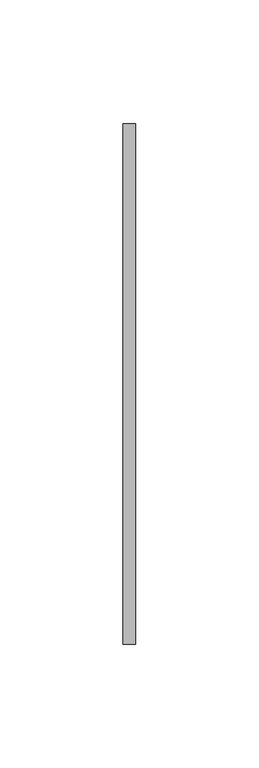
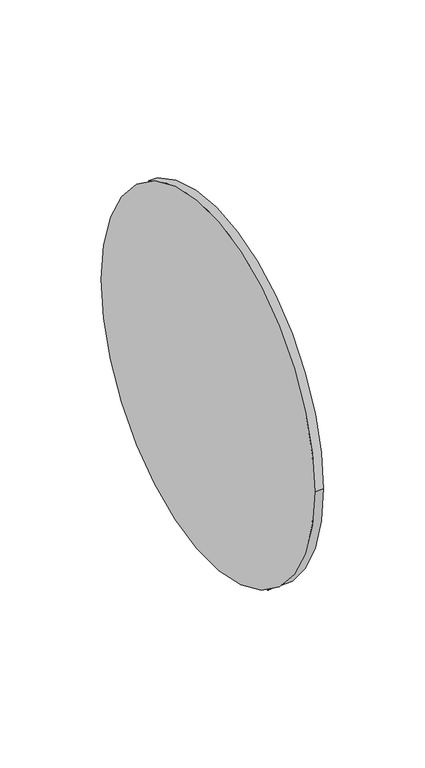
"""IFC4 building model written with IfcOpenShell, lengths in millimetres: pipe fitting geometry, PipeAccessory_GirpiHTA_CPVC_FlatGasketsForFlangeAdaptors : PipeAccessory_GirpiHTA_CPVC_FlatGasketsForFlangeAdaptors."""

from ifc_helpers import new_model, si_unit, point, frame, origin, origin_2d, place, context, project, spatial, circle_curve, trimmed, segment, composite_curve, outline, extrude, source, transform, mapped, element, save


def pipe_fitting_9fa2a6c1(model_context):
    return source(origin(), model_context, "Body", "SweptSolid", [
        extrude(outline(composite_curve([segment(trimmed(circle_curve(origin_2d(), 105.5), [point((-105.5, 0.0))], [point((105.5, 0.0))], False, "CARTESIAN"), True, "CONTINUOUS"), segment(trimmed(circle_curve(origin_2d(), 105.5), [point((105.5, 0.0))], [point((-105.5, 0.0))], False, "CARTESIAN"), True, "CONTINUOUS")], self_intersect=False)), frame((-2.5, 0.0, 0.0), z_axis=(1.0, 0.0, 0.0), x_axis=(0.0, 1.0, 0.0)), (0.0, 0.0, 1.0), 5.0),
    ])


if __name__ == "__main__":
    model = new_model("IFC4")
    model_context = context("Model", 3, world=origin())
    ifc_project = project(units=[si_unit("LENGTHUNIT", "METRE", prefix="MILLI")], contexts=[model_context])
    site = spatial("IfcSite", under=ifc_project)
    building = spatial("IfcBuilding", under=site)
    placement = place(None, origin())
    pipe_fitting_shape = pipe_fitting_9fa2a6c1(model_context)
    element("IfcPipeFitting", 1, ObjectType="PipeAccessory_GirpiHTA_CPVC_FlatGasketsForFlangeAdaptors : PipeAccessory_GirpiHTA_CPVC_FlatGasketsForFlangeAdaptors", at=placement, inside=building, context=model_context, shape_type="MappedRepresentation", body=[
        mapped(pipe_fitting_shape, transform((0.0, 0.0, 0.0), x_axis=(1.0, 0.0, 0.0), y_axis=(0.0, 1.0, 0.0), z_axis=(0.0, 0.0, 1.0))),
    ])
    save(model, "model.ifc")
